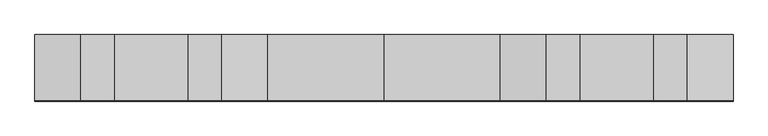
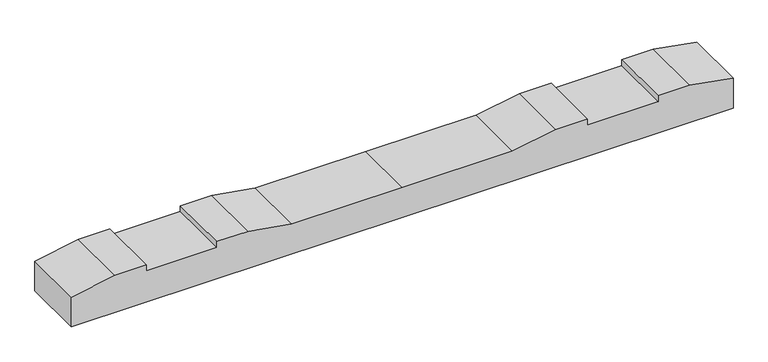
"""IFC4 building model written with IfcOpenShell, lengths in millimetres: proxy geometry, 轨枕-立面角度 : 轨枕-立面角度."""

from ifc_helpers import new_model, si_unit, frame, origin, place, context, project, spatial, polyline, outline, extrude, source, transform, mapped, element, save


def generic_models_ec5337a3(model_context):
    return source(origin(), model_context, "Body", "SweptSolid", [
        extrude(outline(polyline([(0.0, 0.0), (0.0, -100.0206889), (-137.8834664, -124.5), (-237.8834664, -124.5), (-237.8834664, -104.4999999), (-461.8834664, -104.4999999), (-461.8834664, -124.5), (-561.8834664, -124.5), (-699.8834664, -99.9999999), (-1049.8834664, -99.9999999), (-1399.8834664, -99.9999999), (-1537.8834664, -124.5), (-1637.8834664, -124.5), (-1637.8834664, -104.4999999), (-1861.8834664, -104.4999999), (-1861.8834664, -124.5), (-1961.8834664, -124.5), (-2099.7669328, -100.0206889), (-2099.7669328, 0.0), (0.0, 0.0)])), frame((-1049.8834664, 99.6999643, -104.7862926), z_axis=(0.0, -0.9999958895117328, 0.002867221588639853), x_axis=(-1.0, 0.0, 0.0)), (0.0, 0.0, 1.0), 200.0),
    ])


if __name__ == "__main__":
    model = new_model("IFC4")
    model_context = context("Model", 3, world=origin())
    ifc_project = project(units=[si_unit("LENGTHUNIT", "METRE", prefix="MILLI")], contexts=[model_context])
    site = spatial("IfcSite", under=ifc_project)
    building = spatial("IfcBuilding", under=site)
    placement = place(None, origin())
    generic_models_shape = generic_models_ec5337a3(model_context)
    element("IfcBuildingElementProxy", 1, Name="轨枕-立面角度 : 轨枕-立面角度", ObjectType="轨枕-立面角度 : 轨枕-立面角度", at=placement, inside=building, context=model_context, shape_type="MappedRepresentation", body=[
        mapped(generic_models_shape, transform((0.0, 0.0, 0.0), x_axis=(1.0, 0.0, 0.0), y_axis=(0.0, 1.0, 0.0), z_axis=(0.0, 0.0, 1.0))),
    ])
    save(model, "model.ifc")
